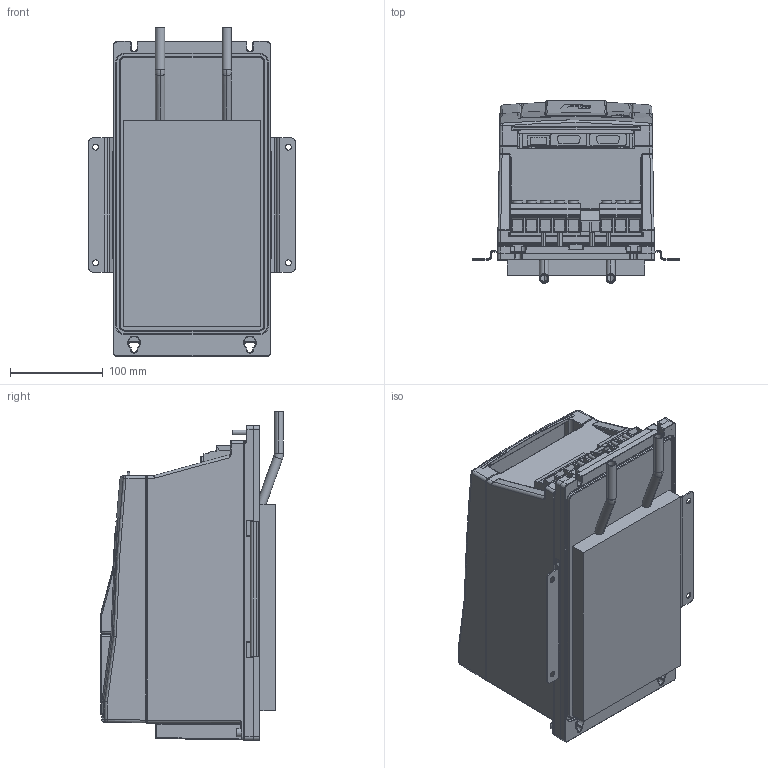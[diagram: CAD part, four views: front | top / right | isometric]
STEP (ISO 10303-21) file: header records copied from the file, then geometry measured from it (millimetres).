
FILE_DESCRIPTION (( 'STEP AP214' ), '1' );
FILE_NAME ('F6-3 TW5-P150.STEP', '2022-05-25T10:04:48', ( '' ), ( '' ), 'SwSTEP 2.0', 'SolidWorks 2019', '' );
FILE_SCHEMA (( 'AUTOMOTIVE_DESIGN' ));
Length unit declared in the file: millimetre
Products named in the file (9): 10059764_000_Blindabdeckung (Kundenmodell); Kundenmodell^10040482_000; Kundenmodell^10068340_000; 10068340_000_Leistungsteil TW5 (Kundenmodell); Kundenmodell^10059764_000; Kundenmodell^10051076_000_Kundenmodell mit Geberbuchsen; 10040482_000_Kundenmodell; F6-3 TW5-P150; 10051076_000_Kundenmodell
Assembly tree (8 placements, depth 4):
  F6-3 TW5-P150
    10068340_000_Leistungsteil TW5 (Kundenmodell)
      Kundenmodell^10068340_000
    10040482_000_Kundenmodell
      Kundenmodell^10040482_000
    10051076_000_Kundenmodell
      10059764_000_Blindabdeckung (Kundenmodell)
        Kundenmodell^10059764_000
      Kundenmodell^10051076_000_Kundenmodell mit Geberbuchsen
Bounding box: 223 x 197.4 x 355 mm (x, y, z)
Volume: 7988813.7 mm3; surface area: 588168.3 mm2
Topology: 11 solids, 14 shells, 2012 faces, 5108 edges, 3136 vertices
Faces by surface type: plane 834, cylinder 625, bspline 331, torus 95, cone 77, sphere 50
Entity records: 67702 total; most frequent: CARTESIAN_POINT 22050, ORIENTED_EDGE 10088, DIRECTION 8703, EDGE_CURVE 5044, VERTEX_POINT 3135, AXIS2_PLACEMENT_3D 3008, VECTOR 2687, LINE 2687
